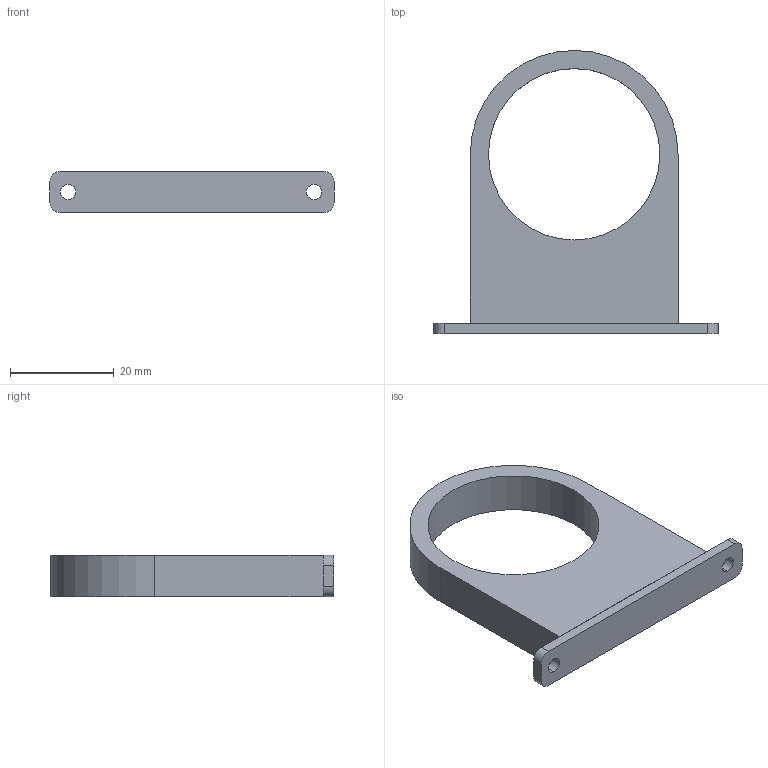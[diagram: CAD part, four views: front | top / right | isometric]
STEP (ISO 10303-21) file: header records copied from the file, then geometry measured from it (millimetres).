
FILE_DESCRIPTION (( 'STEP AP214' ), '1' );
FILE_NAME ('object-braket.STEP', '2025-08-06T07:24:17', ( '' ), ( '' ), 'SwSTEP 2.0', 'SolidWorks 2024', '' );
FILE_SCHEMA (( 'AUTOMOTIVE_DESIGN' ));
Length unit declared in the file: millimetre
Products named in the file (1): object-braket
Bounding box: 54.71 x 54.5 x 8 mm (x, y, z)
Volume: 9424.7 mm3; surface area: 4800.3 mm2
Topology: 1 solids, 1 shells, 21 faces, 57 edges, 38 vertices
Faces by surface type: cylinder 12, plane 9
Entity records: 710 total; most frequent: DIRECTION 125, CARTESIAN_POINT 117, ORIENTED_EDGE 114, EDGE_CURVE 57, AXIS2_PLACEMENT_3D 46, VERTEX_POINT 38, VECTOR 33, LINE 33
